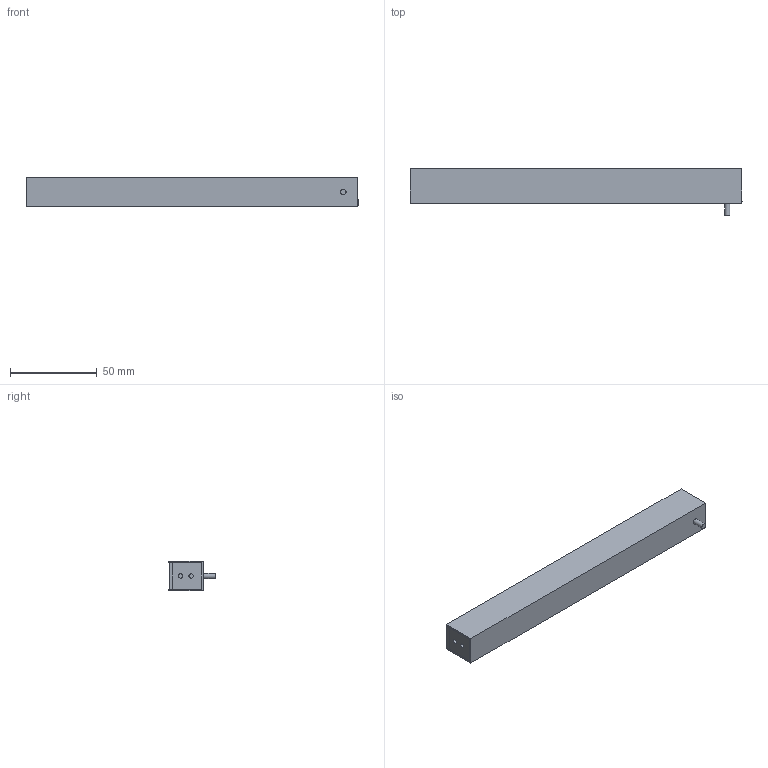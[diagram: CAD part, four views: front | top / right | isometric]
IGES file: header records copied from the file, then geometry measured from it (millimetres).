
Global section: file name: 153-00756_LB 180 xD-24-KFL5; native system: Autodesk Inventor 2018; preprocessor: unknown; author: ss; date: 20180726.090946; units: millimetre
Bounding box: 191 x 27 x 17.2 mm (x, y, z)
Volume: 63881.9 mm3; surface area: 29565 mm2
Topology: 1 solids, 1 shells, 38 faces, 96 edges, 68 vertices
Faces by surface type: bspline 38
